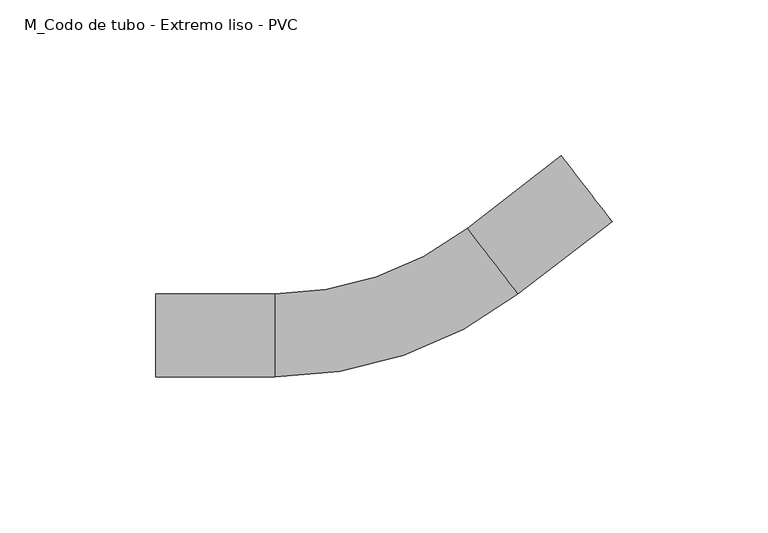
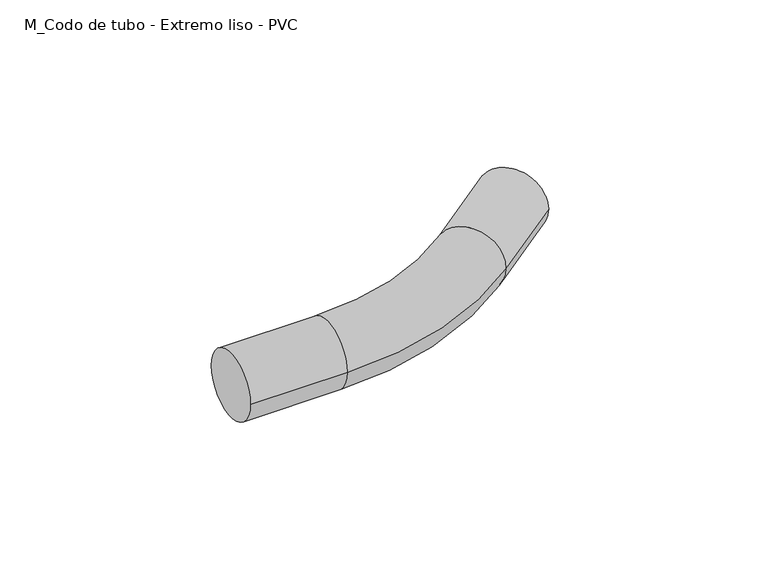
"""IFC4 building model written with IfcOpenShell, lengths in millimetres: cable carrier fitting geometry, M_Codo de tubo - Extremo liso - PVC : CODO ILUMINACION."""

import ifcopenshell
import ifcopenshell.guid

model = None  # the IFC model being written
_history = None  # IfcOwnerHistory: only IFC2X3 demands one
_inside = {}  # id of a spatial element -> (the spatial element, [elements in it])
_under = {}  # id of a project, library or spatial element -> (it, [spatial elements below it])
_declared = {}  # id of a project -> (the project, [libraries it declares])
_typed = {}  # id of a type object -> (the type object, [elements of that type])
_made_of = {}  # id of a material, layer set ... -> (it, [elements and type objects made of it])


def new_model(schema):
    """Start an empty IFC model of exactly this schema.

    Asked for "IFC4X3", IfcOpenShell would pick the latest addendum, in which some entities
    have other attributes; the version numbers below select the first issue.
    IFC2X3 requires an IfcOwnerHistory on every rooted entity: one is made here for all.
    """
    global model, _history
    if schema == "IFC4X3":
        model = ifcopenshell.file(schema_version=(4, 3, 0, 0))
    else:
        model = ifcopenshell.file(schema=schema)
    _inside.clear()
    _under.clear()
    _declared.clear()
    _typed.clear()
    _made_of.clear()
    _history = None
    if model.schema == "IFC2X3":
        org = make("IfcOrganization", Name="unknown")
        user = make(
            "IfcPersonAndOrganization",
            ThePerson=make("IfcPerson", FamilyName="unknown"),
            TheOrganization=org,
        )
        app = make(
            "IfcApplication",
            ApplicationDeveloper=org,
            Version="unknown",
            ApplicationFullName="unknown",
            ApplicationIdentifier="unknown",
        )
        _history = make(
            "IfcOwnerHistory",
            OwningUser=user,
            OwningApplication=app,
            ChangeAction="ADDED",
            CreationDate=0,
        )
    return model


def make(cls, **values):
    """One entity of the class cls with the attributes given. An attribute that is None is left unset."""
    return model.create_entity(
        cls, **{name: value for name, value in values.items() if value is not None}
    )


def rooted(cls, **values):
    """An entity with a GlobalId (a new one), such as an element, a storey or a relation."""
    return make(cls, GlobalId=ifcopenshell.guid.new(), OwnerHistory=_history, **values)


def si_unit(unit_type, name, prefix=None):
    """IfcSIUnit, for example si_unit("LENGTHUNIT", "METRE", prefix="MILLI")."""
    return make("IfcSIUnit", UnitType=unit_type, Prefix=prefix, Name=name)


def assignment(units):
    """IfcUnitAssignment: the units of a project."""
    return None if units is None else make("IfcUnitAssignment", Units=units)


def point(xyz):
    """IfcCartesianPoint."""
    return None if xyz is None else make("IfcCartesianPoint", Coordinates=xyz)


def direction(xyz):
    """IfcDirection."""
    return None if xyz is None else make("IfcDirection", DirectionRatios=xyz)


def frame(location, z_axis=None, x_axis=None):
    """IfcAxis2Placement3D, a coordinate frame: its origin and axes. An axis left out is left unset."""
    return make(
        "IfcAxis2Placement3D",
        Location=point(location),
        Axis=direction(z_axis),
        RefDirection=direction(x_axis),
    )


def origin():
    """The frame at (0, 0, 0) with its axes left unset."""
    return frame((0.0, 0.0, 0.0))


def place(relative_to, where):
    """IfcLocalPlacement: puts the frame where relative to a parent placement (None: the world)."""
    return make(
        "IfcLocalPlacement", PlacementRelTo=relative_to, RelativePlacement=where
    )


def context(
    kind, dimensions, precision=None, world=None, true_north=None, identifier=None
):
    """IfcGeometricRepresentationContext, for example the 3D "Model" context."""
    return make(
        "IfcGeometricRepresentationContext",
        ContextIdentifier=identifier,
        ContextType=kind,
        CoordinateSpaceDimension=dimensions,
        Precision=precision,
        WorldCoordinateSystem=world,
        TrueNorth=true_north,
    )


def project(units=None, contexts=None):
    """IfcProject with its units and contexts."""
    return rooted(
        "IfcProject",
        Name="project",
        RepresentationContexts=contexts,
        UnitsInContext=assignment(units),
    )


def spatial(cls, under=None, at=None, **own):
    """A site, building, storey or space (cls), placed at a placement, below another one or the project."""
    s = rooted(cls, ObjectPlacement=at, **own)
    if under is not None:
        _under.setdefault(under.id(), (under, []))[1].append(s)
    return s


def circle_curve(where, radius):
    """IfcCircle in the frame where."""
    return make("IfcCircle", Position=where, Radius=radius)


def ellipse_curve(where, semi_axis1, semi_axis2):
    """IfcEllipse in the frame where."""
    return make(
        "IfcEllipse", Position=where, SemiAxis1=semi_axis1, SemiAxis2=semi_axis2
    )


def trimmed(basis, trim1, trim2, sense, master):
    """IfcTrimmedCurve: the piece of a basis curve between two trims."""
    return make(
        "IfcTrimmedCurve",
        BasisCurve=basis,
        Trim1=trim1,
        Trim2=trim2,
        SenseAgreement=sense,
        MasterRepresentation=master,
    )


def shape(context_of_items, identifier, shape_type, items):
    """IfcShapeRepresentation: the items that make up one representation, for example the "Body"."""
    return make(
        "IfcShapeRepresentation",
        ContextOfItems=context_of_items,
        RepresentationIdentifier=identifier,
        RepresentationType=shape_type,
        Items=items,
    )


def source(mapping_origin, context_of_items, identifier, shape_type, items):
    """IfcRepresentationMap: a shape defined once, which mapped items show again and again."""
    return make(
        "IfcRepresentationMap",
        MappingOrigin=mapping_origin,
        MappedRepresentation=shape(context_of_items, identifier, shape_type, items),
    )


def transform(
    local_origin,
    x_axis=None,
    y_axis=None,
    z_axis=None,
    scale=None,
    scale2=None,
    scale3=None,
    uniform=True,
):
    """IfcCartesianTransformationOperator3D, or its non-uniform kind. x_axis, y_axis, z_axis: its Axis1, 2, 3."""
    if uniform:
        return make(
            "IfcCartesianTransformationOperator3D",
            Axis1=direction(x_axis),
            Axis2=direction(y_axis),
            LocalOrigin=point(local_origin),
            Scale=scale,
            Axis3=direction(z_axis),
        )
    return make(
        "IfcCartesianTransformationOperator3DnonUniform",
        Axis1=direction(x_axis),
        Axis2=direction(y_axis),
        LocalOrigin=point(local_origin),
        Scale=scale,
        Axis3=direction(z_axis),
        Scale2=scale2,
        Scale3=scale3,
    )


def mapped(mapping_source, mapping_target):
    """IfcMappedItem: shows the shape of a source again, moved by a transform."""
    return make(
        "IfcMappedItem", MappingSource=mapping_source, MappingTarget=mapping_target
    )


def made_of(thing, what):
    """Note that an element or type object is made of a material, layer set ...; save() writes the relation."""
    if what is not None:
        _made_of.setdefault(what.id(), (what, []))[1].append(thing)
    return thing


def element(
    cls,
    number,
    at=None,
    inside=None,
    cuts=None,
    type_object=None,
    material=None,
    context=None,
    identifier="Body",
    shape_type=None,
    held_by="IfcProductDefinitionShape",
    body=None,
    shapes=None,
    **own,
):
    """One element of the class cls, such as IfcWall. Its Tag is "e" and its number.

    at: its placement. inside: the storey or other place that contains it. cuts: it is an
    opening in that element (IfcRelVoidsElement). A single representation is given by context,
    identifier, shape_type and body (its items); several are given by shapes. held_by: the class
    of the entity that holds the representations. save() writes the other relations.
    """
    e = rooted(cls, Tag="e%d" % number, ObjectPlacement=at, **own)
    if body is not None:
        shapes = [shape(context, identifier, shape_type, body)]
    if shapes is not None:
        e.Representation = make(held_by, Representations=shapes)
    if inside is not None:
        _inside.setdefault(inside.id(), (inside, []))[1].append(e)
    if cuts is not None:
        rooted(
            "IfcRelVoidsElement", RelatingBuildingElement=cuts, RelatedOpeningElement=e
        )
    if type_object is not None:
        _typed.setdefault(type_object.id(), (type_object, []))[1].append(e)
    return made_of(e, material)


def aggregate(whole, parts):
    """IfcRelAggregates: a whole, such as a stair, and the parts it consists of."""
    return rooted("IfcRelAggregates", RelatingObject=whole, RelatedObjects=parts)


def save(model, path):
    """Write the relations noted so far, then the file.

    IfcRelAggregates (storeys below a building ...), IfcRelContainedInSpatialStructure (elements
    in a storey), IfcRelDefinesByType, IfcRelAssociatesMaterial and IfcRelDeclares: one each for
    every whole, place, type object, material and project.
    """
    for whole, parts in _under.values():
        aggregate(whole, parts)
    for where, things in _inside.values():
        rooted(
            "IfcRelContainedInSpatialStructure",
            RelatedElements=things,
            RelatingStructure=where,
        )
    for kind, things in _typed.values():
        rooted("IfcRelDefinesByType", RelatedObjects=things, RelatingType=kind)
    for what, things in _made_of.values():
        rooted("IfcRelAssociatesMaterial", RelatedObjects=things, RelatingMaterial=what)
    for by, libraries in _declared.values():
        rooted("IfcRelDeclares", RelatingContext=by, RelatedDefinitions=libraries)
    model.write(path)


def plane_surface(at):
    """IfcPlane: the flat surface through the origin of the frame at, square to its z axis."""
    return make("IfcPlane", Position=at)


def cylinder_surface(at, radius):
    """IfcCylindricalSurface: all points at the distance radius from the z axis of the frame at."""
    return make("IfcCylindricalSurface", Position=at, Radius=radius)


def revolved_surface(curve, axis_point, axis_direction):
    """IfcSurfaceOfRevolution: the curve turned about the line through axis_point along axis_direction."""
    return make(
        "IfcSurfaceOfRevolution",
        SweptCurve=make("IfcArbitraryOpenProfileDef", ProfileType="CURVE", Curve=curve),
        AxisPosition=make("IfcAxis1Placement", Location=point(axis_point), Axis=direction(axis_direction)),
    )


def advanced_brep(points, edges, surfaces, faces):
    """IfcAdvancedBrep: a solid bounded by faces that lie on surfaces and meet in shared edges.

    An edge is (start, end): straight between two places in points (the first is 0);
    or (start, end, curve); or (start, end, curve, False) where it runs against its curve.
    A face is (place in surfaces, loops), or (place, loops, False) where it looks against
    its surface's normal. A loop lists edges by number (the first is 1), with a minus sign
    where the edge is run from its end to its start. The first loop is the outer one.
    """
    corners = [point(p) for p in points]
    vertices = [make("IfcVertexPoint", VertexGeometry=c) for c in corners]
    made = []
    for start, end, *more in edges:
        made.append(
            make(
                "IfcEdgeCurve",
                EdgeStart=vertices[start],
                EdgeEnd=vertices[end],
                EdgeGeometry=more[0] if more else make("IfcPolyline", Points=[corners[start], corners[end]]),
                SameSense=more[1] if len(more) > 1 else True,
            )
        )
    hull = []
    for where, loops, *sense in faces:
        bounds = []
        for j, loop in enumerate(loops):
            ring = [make("IfcOrientedEdge", EdgeElement=made[abs(k) - 1], Orientation=k > 0) for k in loop]
            bounds.append(
                make(
                    "IfcFaceOuterBound" if j == 0 else "IfcFaceBound",
                    Bound=make("IfcEdgeLoop", EdgeList=ring),
                    Orientation=True,
                )
            )
        hull.append(make("IfcAdvancedFace", Bounds=bounds, FaceSurface=surfaces[where], SameSense=sense[0] if sense else True))
    return make("IfcAdvancedBrep", Outer=make("IfcClosedShell", CfsFaces=hull))


def m_codo_de_tubo_extremo_liso_pvc_45b9718f(model_context):
    return source(origin(), model_context, "Body", "AdvancedBrep", [
        advanced_brep(
        [(-77.0316726, -13.335, 0.0), (-77.0316726, 13.335, 0.0), (-38.9316726, -13.335, 0.0), (-38.9316726, 13.335, 0.0), (22.6976927, 34.3265509, 0.0), (38.9771477, 13.2014889, 0.0), (69.1558077, 36.4578531, 0.0), (52.8763528, 57.5829152, 0.0)],
        [
            (0, 1, circle_curve(frame((-77.0316726, 0.0, 0.0), z_axis=(-1.0, 0.0, 0.0), x_axis=(0.0, 1.0, 0.0)), 13.335)),
            (1, 0, circle_curve(frame((-77.0316726, 0.0, 0.0), z_axis=(-1.0, 0.0, 0.0), x_axis=(0.0, 1.0, 0.0)), 13.335)),
            (0, 2),
            (2, 3, circle_curve(frame((-38.9316726, 0.0, 0.0), z_axis=(-1.0, 0.0, 0.0), x_axis=(0.0, 1.0, 0.0)), 13.335)),
            (3, 1),
            (3, 2, circle_curve(frame((-38.9316726, 0.0, 0.0), z_axis=(-1.0, 0.0, 0.0), x_axis=(0.0, 1.0, 0.0)), 13.335)),
            (4, 3, circle_curve(frame((-38.9316726, 114.3, 0.0), z_axis=(0.0, 0.0, -1.0), x_axis=(0.0, -1.0, 0.0)), 100.965)),
            (2, 5, circle_curve(frame((-38.9316726, 114.3, 0.0), z_axis=(0.0, 0.0, 1.0), x_axis=(0.0, -1.0, 0.0)), 127.635)),
            (5, 4, circle_curve(frame((30.8374202, 23.7640199, 0.0), z_axis=(-0.7920908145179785, -0.6104032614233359, 0.0), x_axis=(-0.6104032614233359, 0.7920908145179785, 0.0)), 13.335)),
            (4, 5, circle_curve(frame((30.8374202, 23.7640199, 0.0), z_axis=(-0.7920908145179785, -0.6104032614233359, 0.0), x_axis=(-0.6104032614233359, 0.7920908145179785, 0.0)), 13.335)),
            (6, 7, circle_curve(frame((61.0160803, 47.0203842, 0.0), z_axis=(0.7920908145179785, 0.6104032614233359, 0.0), x_axis=(-0.6104032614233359, 0.7920908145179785, 0.0)), 13.335)),
            (7, 6, circle_curve(frame((61.0160803, 47.0203842, 0.0), z_axis=(0.7920908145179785, 0.6104032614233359, 0.0), x_axis=(-0.6104032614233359, 0.7920908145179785, 0.0)), 13.335)),
            (5, 6),
            (7, 4),
        ],
        [
            plane_surface(frame((-77.0316726, 0.0, 0.0), z_axis=(-1.0, 0.0, 0.0), x_axis=(0.0, 0.0, 1.0))),
            cylinder_surface(frame((-77.0316726, 0.0, 0.0), z_axis=(-1.0, 0.0, 0.0), x_axis=(0.0, 1.0, 0.0)), 13.335),
            revolved_surface(trimmed(ellipse_curve(frame((-38.9316726, 0.0, 0.0), z_axis=(-1.0, 0.0, 0.0), x_axis=(0.0, 1.0, 0.0)), 13.335, 13.335), [point((-38.9316726, -13.335, 0.0))], [point((-38.9316726, 13.335, 0.0))], True, "CARTESIAN"), (-38.9316726, 114.3, 0.0), (0.0, 0.0, 1.0)),
            revolved_surface(trimmed(ellipse_curve(frame((-38.9316726, 0.0, 0.0), z_axis=(-1.0, 0.0, 0.0), x_axis=(0.0, 1.0, 0.0)), 13.335, 13.335), [point((-38.9316726, 13.335, 0.0))], [point((-38.9316726, -13.335, 0.0))], True, "CARTESIAN"), (-38.9316726, 114.3, 0.0), (0.0, 0.0, 1.0)),
            plane_surface(frame((61.0160803, 47.0203842, 0.0), z_axis=(0.7920908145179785, 0.6104032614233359, 0.0), x_axis=(0.0, 0.0, 1.0))),
            cylinder_surface(frame((30.8374202, 23.7640199, 0.0), z_axis=(-0.7920908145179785, -0.6104032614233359, 0.0), x_axis=(-0.6104032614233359, 0.7920908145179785, 0.0)), 13.335),
        ],
        [
            (0, [[1, 2]]),
            (1, [[-1, 3, 4, 5]]),
            (1, [[-2, -5, 6, -3]]),
            (2, [[7, -4, 8, 9]]),
            (3, [[-8, -6, -7, 10]]),
            (4, [[11, 12]]),
            (5, [[-9, 13, -12, 14]]),
            (5, [[-10, -14, -11, -13]]),
        ],
    ),
    ])


if __name__ == "__main__":
    model = new_model("IFC4")
    model_context = context("Model", 3, world=origin())
    ifc_project = project(units=[si_unit("LENGTHUNIT", "METRE", prefix="MILLI")], contexts=[model_context])
    site = spatial("IfcSite", under=ifc_project)
    building = spatial("IfcBuilding", under=site)
    placement = place(None, origin())
    m_codo_de_tubo_extremo_liso_pvc_shape = m_codo_de_tubo_extremo_liso_pvc_45b9718f(model_context)
    element("IfcCableCarrierFitting", 1, ObjectType="M_Codo de tubo - Extremo liso - PVC : CODO ILUMINACION", at=placement, inside=building, context=model_context, shape_type="MappedRepresentation", body=[
        mapped(m_codo_de_tubo_extremo_liso_pvc_shape, transform((0.0, 0.0, 0.0), x_axis=(1.0, 0.0, 0.0), y_axis=(0.0, 1.0, 0.0), z_axis=(0.0, 0.0, 1.0))),
    ])
    save(model, "model.ifc")
